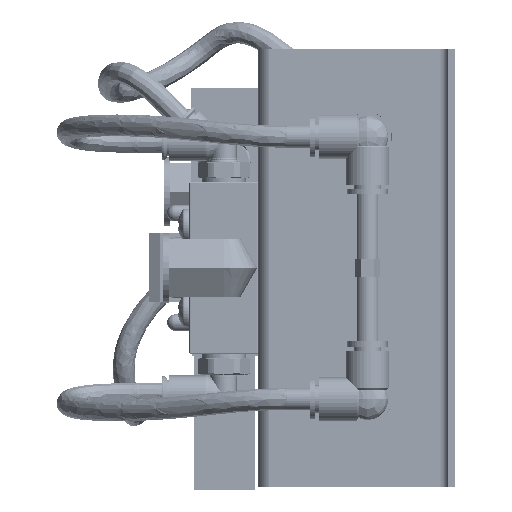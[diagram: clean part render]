
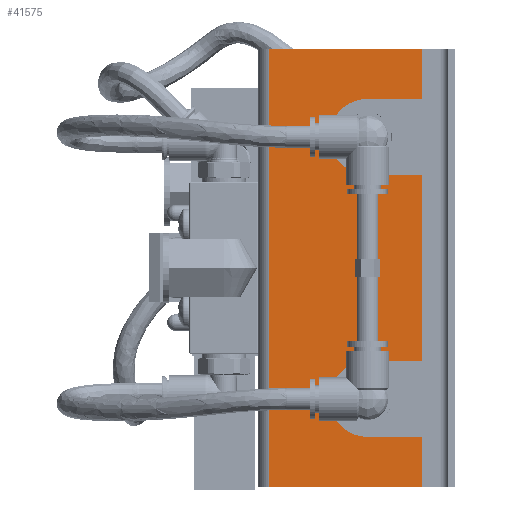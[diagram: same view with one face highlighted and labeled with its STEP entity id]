
A CAD part, left-side view. The second image highlights one B-rep face of the part: STEP entity #41575.
In plain terms, the highlighted planar face has unit normal (-1, 0, 0).
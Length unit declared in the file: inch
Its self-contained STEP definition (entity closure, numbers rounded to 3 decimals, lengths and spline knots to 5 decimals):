
#1282 = AXIS2_PLACEMENT_3D ( 'NONE', #120116, #171219, #27382 ) ;
#2213 = CARTESIAN_POINT ( 'NONE',  ( -4.5841, 1.25, 0. ) ) ;
#2275 = LINE ( 'NONE', #9600, #199718 ) ;
#5385 = DIRECTION ( 'NONE',  ( 1., 0., 0. ) ) ;
#7741 = CARTESIAN_POINT ( 'NONE',  ( -4.5841, 1., 1.933 ) ) ;
#9600 = CARTESIAN_POINT ( 'NONE',  ( -4.5841, 1., 1.067 ) ) ;
#11835 = EDGE_LOOP ( 'NONE', ( #138926, #56925, #46209, #13233, #173058, #63936, #215413, #31008, #118300, #49755, #164684, #77966 ) ) ;
#13233 = ORIENTED_EDGE ( 'NONE', *, *, #204066, .T. ) ;
#13457 = VECTOR ( 'NONE', #67600, 39.37008 ) ;
#15337 = AXIS2_PLACEMENT_3D ( 'NONE', #59241, #60045, #187810 ) ;
#15606 = CARTESIAN_POINT ( 'NONE',  ( -4.5841, 0.375, 1.067 ) ) ;
#15729 = FACE_BOUND ( 'NONE', #141046, .T. ) ;
#20962 = EDGE_CURVE ( 'NONE', #226647, #212425, #187219, .T. ) ;
#21868 = CARTESIAN_POINT ( 'NONE',  ( -4.5841, 0.375, 2.5 ) ) ;
#23757 = CIRCLE ( 'NONE', #102336, 0.433 ) ;
#24963 = CARTESIAN_POINT ( 'NONE',  ( -4.5841, 0.375, -1.067 ) ) ;
#26664 = EDGE_CURVE ( 'NONE', #181566, #201357, #213748, .T. ) ;
#27217 = DIRECTION ( 'NONE',  ( 0., 1., 0. ) ) ;
#27382 = DIRECTION ( 'NONE',  ( 0., 0., 1. ) ) ;
#31008 = ORIENTED_EDGE ( 'NONE', *, *, #142922, .T. ) ;
#35319 = CARTESIAN_POINT ( 'NONE',  ( -4.5841, 0.375, -1.933 ) ) ;
#41575 = ADVANCED_FACE ( 'NONE', ( #15729, #138754 ), #221339, .F. ) ;
#42376 = CARTESIAN_POINT ( 'NONE',  ( -4.5841, 2.125, -2.5 ) ) ;
#43946 = CARTESIAN_POINT ( 'NONE',  ( -4.5841, 1., -0.09375 ) ) ;
#46209 = ORIENTED_EDGE ( 'NONE', *, *, #227324, .T. ) ;
#47110 = VERTEX_POINT ( 'NONE', #202919 ) ;
#48135 = LINE ( 'NONE', #62356, #193944 ) ;
#48803 = VERTEX_POINT ( 'NONE', #92677 ) ;
#49443 = ORIENTED_EDGE ( 'NONE', *, *, #211431, .T. ) ;
#49755 = ORIENTED_EDGE ( 'NONE', *, *, #137297, .F. ) ;
#52122 = DIRECTION ( 'NONE',  ( 0., 0., -1. ) ) ;
#54443 = CIRCLE ( 'NONE', #1282, 0.433 ) ;
#56925 = ORIENTED_EDGE ( 'NONE', *, *, #212226, .T. ) ;
#57396 = DIRECTION ( 'NONE',  ( 0., 0., -1. ) ) ;
#59241 = CARTESIAN_POINT ( 'NONE',  ( -4.5841, 1., 0. ) ) ;
#60045 = DIRECTION ( 'NONE',  ( 1., 0., 0. ) ) ;
#62356 = CARTESIAN_POINT ( 'NONE',  ( -4.5841, 2.125, 2.5 ) ) ;
#62377 = CARTESIAN_POINT ( 'NONE',  ( -4.5841, 0.375, -2.5 ) ) ;
#63936 = ORIENTED_EDGE ( 'NONE', *, *, #154300, .T. ) ;
#67600 = DIRECTION ( 'NONE',  ( 0., 0., -1. ) ) ;
#67919 = CARTESIAN_POINT ( 'NONE',  ( -4.5841, 0.375, 2.5 ) ) ;
#71786 = EDGE_CURVE ( 'NONE', #212425, #47110, #128268, .T. ) ;
#72607 = VERTEX_POINT ( 'NONE', #15606 ) ;
#77562 = DIRECTION ( 'NONE',  ( 0., -1., 0. ) ) ;
#77966 = ORIENTED_EDGE ( 'NONE', *, *, #71786, .F. ) ;
#78925 = CARTESIAN_POINT ( 'NONE',  ( -4.5841, 1., 0. ) ) ;
#86037 = EDGE_CURVE ( 'NONE', #47110, #192860, #203284, .T. ) ;
#88041 = CARTESIAN_POINT ( 'NONE',  ( -4.5841, 0.375, 1.933 ) ) ;
#89642 = DIRECTION ( 'NONE',  ( 1., 0., 0. ) ) ;
#90530 = VERTEX_POINT ( 'NONE', #24963 ) ;
#90760 = CARTESIAN_POINT ( 'NONE',  ( -4.5841, 1., 1.933 ) ) ;
#92677 = CARTESIAN_POINT ( 'NONE',  ( -4.5841, 1., -1.067 ) ) ;
#95768 = DIRECTION ( 'NONE',  ( 0., 0., -1. ) ) ;
#102336 = AXIS2_PLACEMENT_3D ( 'NONE', #199122, #89642, #52122 ) ;
#109677 = DIRECTION ( 'NONE',  ( 0., 1., 0. ) ) ;
#110043 = AXIS2_PLACEMENT_3D ( 'NONE', #78925, #5385, #95768 ) ;
#111129 = VECTOR ( 'NONE', #226381, 39.37008 ) ;
#113216 = CARTESIAN_POINT ( 'NONE',  ( -4.5841, 2.125, 2.5 ) ) ;
#118300 = ORIENTED_EDGE ( 'NONE', *, *, #26664, .F. ) ;
#120116 = CARTESIAN_POINT ( 'NONE',  ( -4.5841, 1., -1.5 ) ) ;
#122702 = VECTOR ( 'NONE', #109677, 39.37008 ) ;
#125374 = VERTEX_POINT ( 'NONE', #210431 ) ;
#125656 = EDGE_CURVE ( 'NONE', #207886, #182534, #23757, .T. ) ;
#126261 = DIRECTION ( 'NONE',  ( 0., 0., -1. ) ) ;
#126957 = EDGE_CURVE ( 'NONE', #72607, #90530, #223642, .T. ) ;
#128268 = LINE ( 'NONE', #42376, #111129 ) ;
#130128 = DIRECTION ( 'NONE',  ( 1., 0., 0. ) ) ;
#130693 = CARTESIAN_POINT ( 'NONE',  ( -4.5841, 1., 0.09375 ) ) ;
#132415 = CARTESIAN_POINT ( 'NONE',  ( -4.5841, 2.125, 2.5 ) ) ;
#137297 = EDGE_CURVE ( 'NONE', #192860, #181566, #48135, .T. ) ;
#138754 = FACE_OUTER_BOUND ( 'NONE', #11835, .T. ) ;
#138786 = AXIS2_PLACEMENT_3D ( 'NONE', #2213, #130128, #57396 ) ;
#138926 = ORIENTED_EDGE ( 'NONE', *, *, #20962, .F. ) ;
#139430 = DIRECTION ( 'NONE',  ( 0., -1., 0. ) ) ;
#141046 = EDGE_LOOP ( 'NONE', ( #49443, #211901 ) ) ;
#141503 = CARTESIAN_POINT ( 'NONE',  ( -4.5841, 1., 1.067 ) ) ;
#142922 = EDGE_CURVE ( 'NONE', #182534, #201357, #193102, .T. ) ;
#142947 = VERTEX_POINT ( 'NONE', #130693 ) ;
#147567 = DIRECTION ( 'NONE',  ( 0., 0., 1. ) ) ;
#149389 = EDGE_CURVE ( 'NONE', #142947, #235073, #169582, .T. ) ;
#150321 = VECTOR ( 'NONE', #182595, 39.37008 ) ;
#154300 = EDGE_CURVE ( 'NONE', #72607, #207886, #2275, .T. ) ;
#163330 = CIRCLE ( 'NONE', #110043, 0.09375 ) ;
#163896 = CARTESIAN_POINT ( 'NONE',  ( -4.5841, 1., -1.933 ) ) ;
#164684 = ORIENTED_EDGE ( 'NONE', *, *, #86037, .F. ) ;
#166056 = CARTESIAN_POINT ( 'NONE',  ( -4.5841, 0.375, 2.5 ) ) ;
#166088 = VECTOR ( 'NONE', #147567, 39.37008 ) ;
#169582 = CIRCLE ( 'NONE', #15337, 0.09375 ) ;
#171219 = DIRECTION ( 'NONE',  ( 1., 0., 0. ) ) ;
#173058 = ORIENTED_EDGE ( 'NONE', *, *, #126957, .F. ) ;
#181566 = VERTEX_POINT ( 'NONE', #67919 ) ;
#182534 = VERTEX_POINT ( 'NONE', #7741 ) ;
#182595 = DIRECTION ( 'NONE',  ( 0., -1., 0. ) ) ;
#187219 = LINE ( 'NONE', #166056, #204487 ) ;
#187810 = DIRECTION ( 'NONE',  ( 0., 0., -1. ) ) ;
#192860 = VERTEX_POINT ( 'NONE', #132415 ) ;
#193102 = LINE ( 'NONE', #90760, #150321 ) ;
#193944 = VECTOR ( 'NONE', #77562, 39.37008 ) ;
#195364 = CARTESIAN_POINT ( 'NONE',  ( -4.5841, 0.375, 2.5 ) ) ;
#199122 = CARTESIAN_POINT ( 'NONE',  ( -4.5841, 1., 1.5 ) ) ;
#199718 = VECTOR ( 'NONE', #27217, 39.37008 ) ;
#201357 = VERTEX_POINT ( 'NONE', #88041 ) ;
#202919 = CARTESIAN_POINT ( 'NONE',  ( -4.5841, 2.125, -2.5 ) ) ;
#202995 = LINE ( 'NONE', #212124, #226071 ) ;
#203284 = LINE ( 'NONE', #113216, #166088 ) ;
#204066 = EDGE_CURVE ( 'NONE', #48803, #90530, #202995, .T. ) ;
#204128 = DIRECTION ( 'NONE',  ( 0., 0., -1. ) ) ;
#204487 = VECTOR ( 'NONE', #126261, 39.37008 ) ;
#207886 = VERTEX_POINT ( 'NONE', #141503 ) ;
#210431 = CARTESIAN_POINT ( 'NONE',  ( -4.5841, 1., -1.933 ) ) ;
#211397 = LINE ( 'NONE', #163896, #122702 ) ;
#211431 = EDGE_CURVE ( 'NONE', #235073, #142947, #163330, .T. ) ;
#211901 = ORIENTED_EDGE ( 'NONE', *, *, #149389, .T. ) ;
#212105 = VECTOR ( 'NONE', #204128, 39.37008 ) ;
#212124 = CARTESIAN_POINT ( 'NONE',  ( -4.5841, 1., -1.067 ) ) ;
#212226 = EDGE_CURVE ( 'NONE', #226647, #125374, #211397, .T. ) ;
#212425 = VERTEX_POINT ( 'NONE', #62377 ) ;
#213748 = LINE ( 'NONE', #195364, #13457 ) ;
#215413 = ORIENTED_EDGE ( 'NONE', *, *, #125656, .T. ) ;
#221339 = PLANE ( 'NONE',  #138786 ) ;
#223642 = LINE ( 'NONE', #21868, #212105 ) ;
#226071 = VECTOR ( 'NONE', #139430, 39.37008 ) ;
#226381 = DIRECTION ( 'NONE',  ( 0., 1., 0. ) ) ;
#226647 = VERTEX_POINT ( 'NONE', #35319 ) ;
#227324 = EDGE_CURVE ( 'NONE', #125374, #48803, #54443, .T. ) ;
#235073 = VERTEX_POINT ( 'NONE', #43946 ) ;
